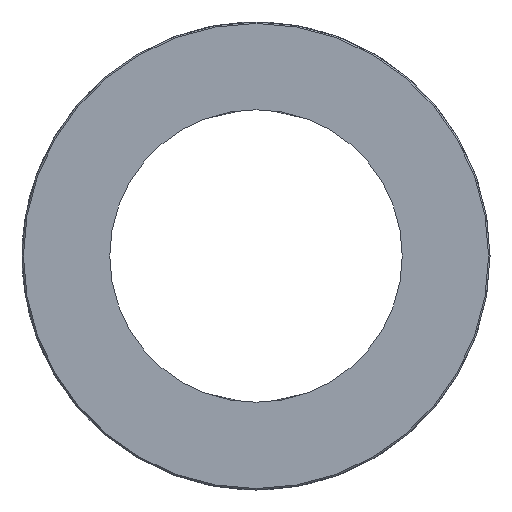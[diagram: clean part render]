
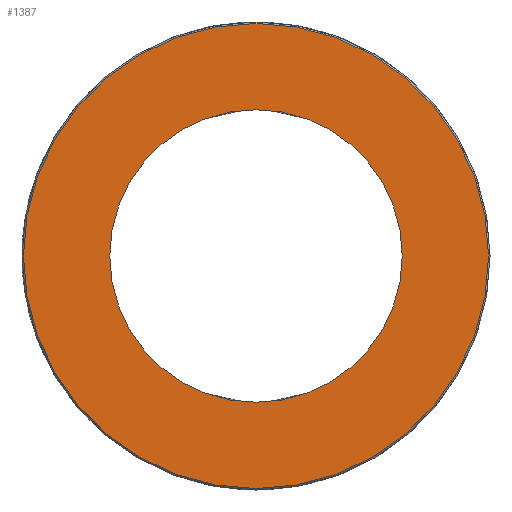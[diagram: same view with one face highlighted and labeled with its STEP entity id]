
A CAD part, left-side view. The second image highlights one B-rep face of the part: STEP entity #1387.
In plain terms, the highlighted planar face has unit normal (-1, 0, 0) as drawn and (0, 0, 1) by its records, which use the part's own axes.
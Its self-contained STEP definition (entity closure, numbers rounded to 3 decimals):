
#87 = DIRECTION ( 'NONE',  ( 0., 0., 1. ) ) ;
#96 = CARTESIAN_POINT ( 'NONE',  ( 0., 0., 15. ) ) ;
#171 = CARTESIAN_POINT ( 'NONE',  ( 0., 0., 15. ) ) ;
#185 = CARTESIAN_POINT ( 'NONE',  ( 0., 0., 15. ) ) ;
#199 = CARTESIAN_POINT ( 'NONE',  ( 0., 0., 15. ) ) ;
#259 = CIRCLE ( 'NONE', #1144, 20. ) ;
#299 = CARTESIAN_POINT ( 'NONE',  ( 20., 0., 15. ) ) ;
#333 = AXIS2_PLACEMENT_3D ( 'NONE', #1054, #87, #1373 ) ;
#361 = AXIS2_PLACEMENT_3D ( 'NONE', #199, #1476, #1317 ) ;
#422 = DIRECTION ( 'NONE',  ( 1., 0., 0. ) ) ;
#456 = ORIENTED_EDGE ( 'NONE', *, *, #919, .F. ) ;
#461 = ORIENTED_EDGE ( 'NONE', *, *, #872, .T. ) ;
#471 = CIRCLE ( 'NONE', #508, 20. ) ;
#496 = DIRECTION ( 'NONE',  ( 0., 0., 1. ) ) ;
#508 = AXIS2_PLACEMENT_3D ( 'NONE', #96, #748, #422 ) ;
#570 = CIRCLE ( 'NONE', #333, 31.8 ) ;
#621 = CARTESIAN_POINT ( 'NONE',  ( 31.8, 0., 15. ) ) ;
#626 = CARTESIAN_POINT ( 'NONE',  ( -20., 0., 15. ) ) ;
#748 = DIRECTION ( 'NONE',  ( 0., 0., 1. ) ) ;
#763 = EDGE_LOOP ( 'NONE', ( #1074, #461 ) ) ;
#820 = DIRECTION ( 'NONE',  ( 1., 0., 0. ) ) ;
#831 = ORIENTED_EDGE ( 'NONE', *, *, #1436, .F. ) ;
#872 = EDGE_CURVE ( 'NONE', #1817, #1399, #570, .T. ) ;
#919 = EDGE_CURVE ( 'NONE', #928, #1765, #471, .T. ) ;
#928 = VERTEX_POINT ( 'NONE', #626 ) ;
#965 = FACE_OUTER_BOUND ( 'NONE', #763, .T. ) ;
#1010 = AXIS2_PLACEMENT_3D ( 'NONE', #185, #1297, #820 ) ;
#1017 = CARTESIAN_POINT ( 'NONE',  ( -31.8, 0., 15. ) ) ;
#1054 = CARTESIAN_POINT ( 'NONE',  ( 0., 0., 15. ) ) ;
#1074 = ORIENTED_EDGE ( 'NONE', *, *, #1496, .T. ) ;
#1144 = AXIS2_PLACEMENT_3D ( 'NONE', #171, #496, #1153 ) ;
#1153 = DIRECTION ( 'NONE',  ( 1., 0., 0. ) ) ;
#1164 = EDGE_LOOP ( 'NONE', ( #456, #831 ) ) ;
#1278 = CIRCLE ( 'NONE', #361, 31.8 ) ;
#1297 = DIRECTION ( 'NONE',  ( 0., 0., 1. ) ) ;
#1317 = DIRECTION ( 'NONE',  ( 1., 0., 0. ) ) ;
#1373 = DIRECTION ( 'NONE',  ( 1., 0., 0. ) ) ;
#1387 = ADVANCED_FACE ( 'NONE', ( #965, #1461 ), #1946, .T. ) ;
#1399 = VERTEX_POINT ( 'NONE', #1017 ) ;
#1436 = EDGE_CURVE ( 'NONE', #1765, #928, #259, .T. ) ;
#1461 = FACE_BOUND ( 'NONE', #1164, .T. ) ;
#1476 = DIRECTION ( 'NONE',  ( 0., 0., 1. ) ) ;
#1496 = EDGE_CURVE ( 'NONE', #1399, #1817, #1278, .T. ) ;
#1765 = VERTEX_POINT ( 'NONE', #299 ) ;
#1817 = VERTEX_POINT ( 'NONE', #621 ) ;
#1946 = PLANE ( 'NONE',  #1010 ) ;
